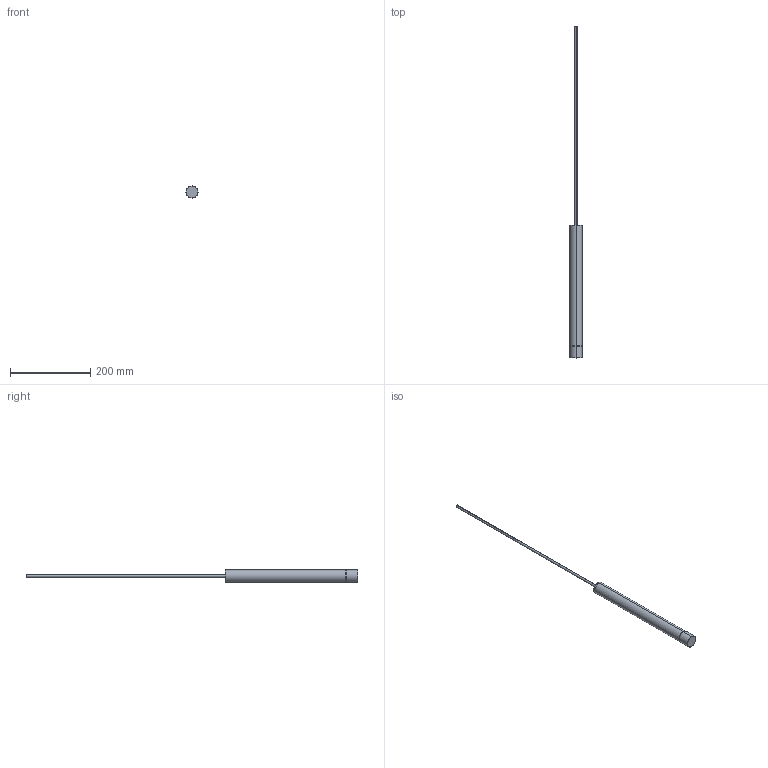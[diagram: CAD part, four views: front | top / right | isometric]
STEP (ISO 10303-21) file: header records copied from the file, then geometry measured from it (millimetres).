
FILE_DESCRIPTION (( 'STEP AP203' ), '1' );
FILE_NAME ('tob lines 30.STEP', '2022-11-20T23:24:26', ( '' ), ( '' ), 'SwSTEP 2.0', 'SolidWorks 2014', '' );
FILE_SCHEMA (( 'CONFIG_CONTROL_DESIGN' ));
Length unit declared in the file: millimetre
Products named in the file (1): tob lines 30
Bounding box: 30 x 826 x 30 mm (x, y, z)
Volume: 230042.9 mm3; surface area: 51021.1 mm2
Topology: 3 solids, 3 shells, 27 faces, 50 edges, 30 vertices
Faces by surface type: torus 10, cylinder 10, plane 7
Entity records: 761 total; most frequent: DIRECTION 146, CARTESIAN_POINT 108, ORIENTED_EDGE 100, AXIS2_PLACEMENT_3D 68, EDGE_CURVE 50, CIRCLE 40, VERTEX_POINT 30, EDGE_LOOP 30
